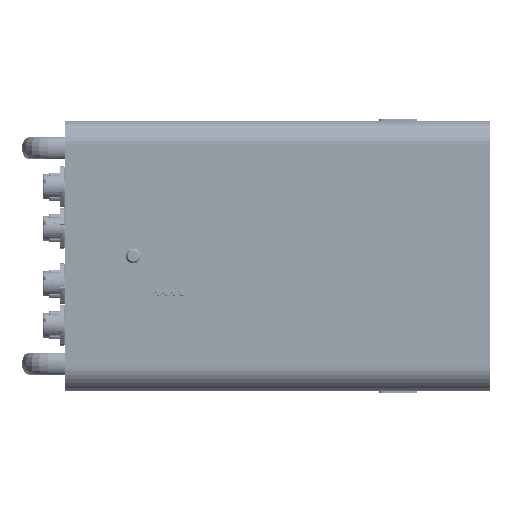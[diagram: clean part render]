
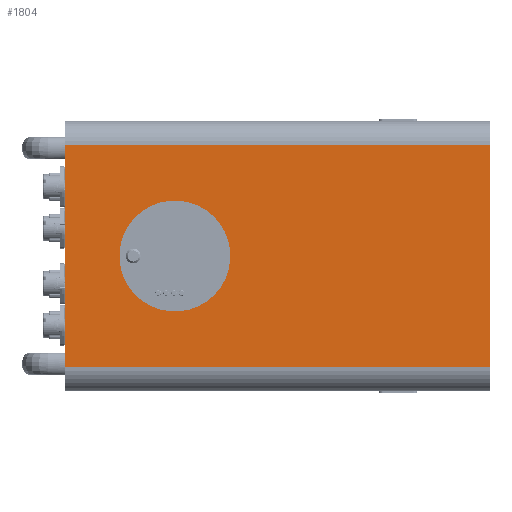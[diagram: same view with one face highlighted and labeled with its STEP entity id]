
A CAD part, front view. The second image highlights one B-rep face of the part: STEP entity #1804.
In plain terms, the highlighted planar face has unit normal (0, -1, 0) as drawn and (0, 0, -1) by its records, which use the part's own axes.
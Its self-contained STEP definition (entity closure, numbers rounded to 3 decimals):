
#499=DIRECTION('',(-1.,0.,0.));
#500=VECTOR('',#499,240.);
#501=CARTESIAN_POINT('',(120.,0.,-181.5));
#502=LINE('',#501,#500);
#550=DIRECTION('',(-1.,0.,0.));
#551=VECTOR('',#550,240.);
#552=CARTESIAN_POINT('',(120.,460.,-181.5));
#553=LINE('',#552,#551);
#586=DIRECTION('',(0.,1.,0.));
#587=VECTOR('',#586,460.);
#588=CARTESIAN_POINT('',(-120.,0.,-181.5));
#589=LINE('',#588,#587);
#593=DIRECTION('',(0.,1.,0.));
#594=VECTOR('',#593,460.);
#595=CARTESIAN_POINT('',(120.,0.,-181.5));
#596=LINE('',#595,#594);
#600=CARTESIAN_POINT('',(-0.007,119.279,-181.5));
#601=DIRECTION('',(0.,0.,-1.));
#602=DIRECTION('',(-0.818,-0.575,0.));
#603=AXIS2_PLACEMENT_3D('',#600,#601,#602);
#608=CARTESIAN_POINT('',(-0.007,119.279,-181.5));
#609=DIRECTION('',(0.,0.,-1.));
#610=DIRECTION('',(0.964,-0.266,0.));
#611=AXIS2_PLACEMENT_3D('',#608,#609,#610);
#1202=CARTESIAN_POINT('',(120.,0.,-181.5));
#1204=VERTEX_POINT('',#1202);
#1205=CARTESIAN_POINT('',(-120.,0.,-181.5));
#1206=VERTEX_POINT('',#1205);
#1210=CARTESIAN_POINT('',(120.,460.,-181.5));
#1212=VERTEX_POINT('',#1210);
#1213=CARTESIAN_POINT('',(-120.,460.,-181.5));
#1214=VERTEX_POINT('',#1213);
#1249=CARTESIAN_POINT('',(-49.077,84.75,-181.5));
#1250=CARTESIAN_POINT('',(57.835,103.333,-181.5));
#1251=VERTEX_POINT('',#1249);
#1252=VERTEX_POINT('',#1250);
#1786=CARTESIAN_POINT('',(120.,0.,-181.5));
#1787=DIRECTION('',(0.,0.,-1.));
#1788=DIRECTION('',(-1.,0.,0.));
#1789=AXIS2_PLACEMENT_3D('',#1786,#1787,#1788);
#1790=PLANE('',#1789);
#1791=ORIENTED_EDGE('',*,*,#1684,.F.);
#1793=ORIENTED_EDGE('',*,*,#1792,.T.);
#1794=ORIENTED_EDGE('',*,*,#1731,.T.);
#1795=ORIENTED_EDGE('',*,*,#1772,.F.);
#1796=EDGE_LOOP('',(#1791,#1793,#1794,#1795));
#1797=FACE_OUTER_BOUND('',#1796,.F.);
#1799=ORIENTED_EDGE('',*,*,#1798,.T.);
#1801=ORIENTED_EDGE('',*,*,#1800,.T.);
#1802=EDGE_LOOP('',(#1799,#1801));
#1803=FACE_BOUND('',#1802,.F.);
#604=CIRCLE('',#603,60.);
#612=CIRCLE('',#611,60.);
#1684=EDGE_CURVE('',#1204,#1206,#502,.T.);
#1731=EDGE_CURVE('',#1212,#1214,#553,.T.);
#1772=EDGE_CURVE('',#1206,#1214,#589,.T.);
#1792=EDGE_CURVE('',#1204,#1212,#596,.T.);
#1798=EDGE_CURVE('',#1251,#1252,#604,.T.);
#1800=EDGE_CURVE('',#1252,#1251,#612,.T.);
#1804=ADVANCED_FACE('',(#1797,#1803),#1790,.T.);
